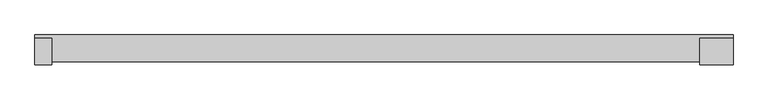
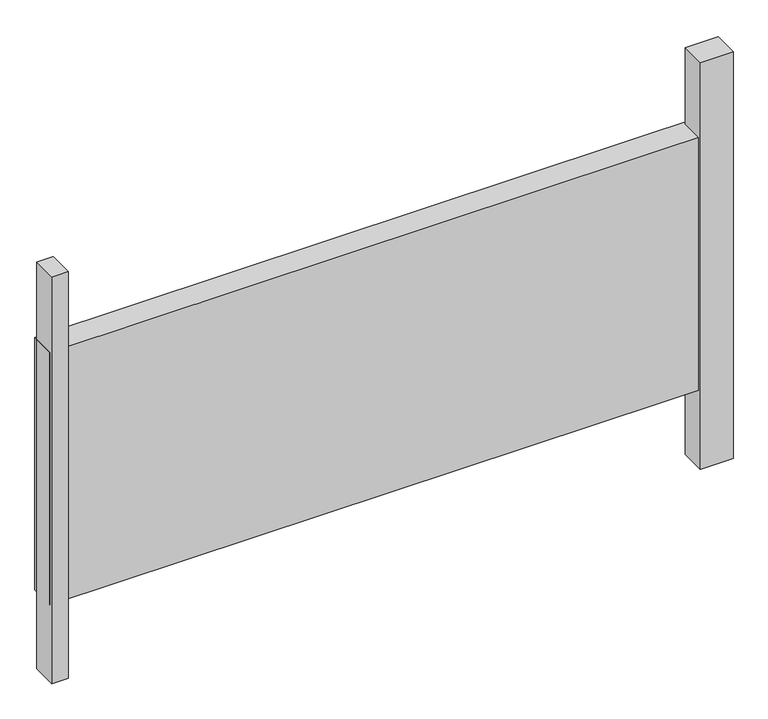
"""IFC4 building model written with IfcOpenShell, lengths in millimetres: proxy geometry, IMPRESS^TABLE 4_BASE METAL-TOP FRAME."""

from ifc_helpers import new_model, si_unit, frame, origin, place, context, project, spatial, polyline, outline, extrude, source, transform, mapped, element, save


def generic_models_b9621f19(model_context):
    return source(origin(), model_context, "Body", "SweptSolid", [
        extrude(outline(polyline([(304.8, 44.45), (336.55, 44.45), (336.55, -6.35), (304.8, -6.35), (304.8, 44.45)])), frame((0.0, 0.0, -679.45), z_axis=(0.0, 0.0, 1.0), x_axis=(1.0, 0.0, 0.0)), (0.0, 0.0, 1.0), 838.2),
        extrude(outline(polyline([(1568.45, 44.45), (1631.95, 44.45), (1631.95, -6.35), (1568.45, -6.35), (1568.45, 44.45)])), frame((0.0, 0.0, -679.45), z_axis=(0.0, 0.0, 1.0), x_axis=(1.0, 0.0, 0.0)), (0.0, 0.0, 1.0), 838.2),
        extrude(outline(polyline([(304.8, 0.0), (304.8, 50.8), (1631.95, 50.8), (1631.95, 0.0), (304.8, 0.0)])), frame((0.0, 0.0, -520.7), z_axis=(0.0, 0.0, 1.0), x_axis=(1.0, 0.0, 0.0)), (0.0, 0.0, 1.0), 520.7),
    ])


if __name__ == "__main__":
    model = new_model("IFC4")
    model_context = context("Model", 3, world=origin())
    ifc_project = project(units=[si_unit("LENGTHUNIT", "METRE", prefix="MILLI")], contexts=[model_context])
    site = spatial("IfcSite", under=ifc_project)
    building = spatial("IfcBuilding", under=site)
    placement = place(None, origin())
    generic_models_shape = generic_models_b9621f19(model_context)
    element("IfcBuildingElementProxy", 1, Name="IMPRESS^TABLE 4_BASE METAL-TOP FRAME", ObjectType="IMPRESS^TABLE 4_BASE METAL-TOP FRAME", at=placement, inside=building, context=model_context, shape_type="MappedRepresentation", body=[
        mapped(generic_models_shape, transform((0.0, 0.0, 0.0), x_axis=(1.0, 0.0, 0.0), y_axis=(0.0, 1.0, 0.0), z_axis=(0.0, 0.0, 1.0))),
    ])
    save(model, "model.ifc")
